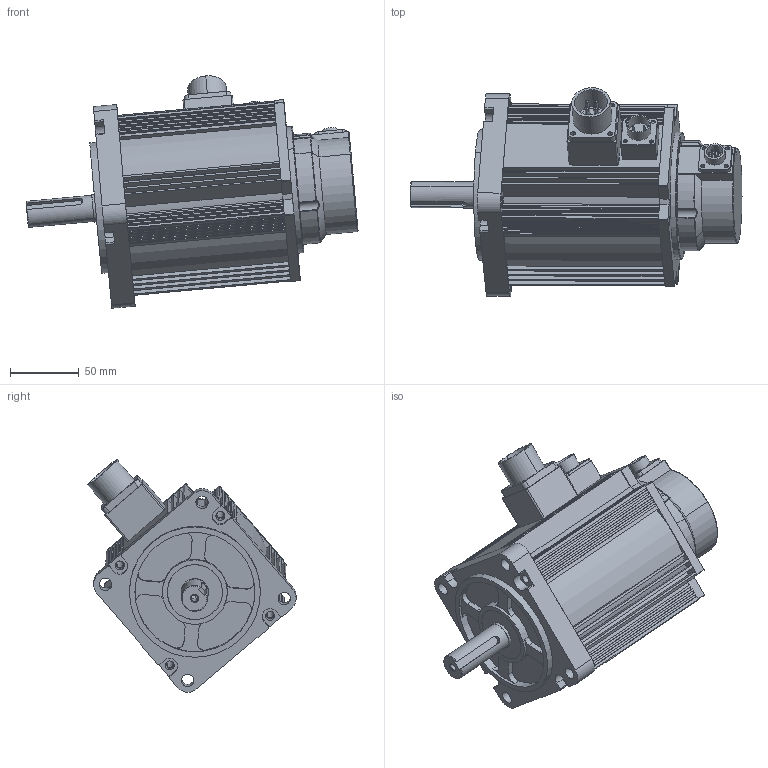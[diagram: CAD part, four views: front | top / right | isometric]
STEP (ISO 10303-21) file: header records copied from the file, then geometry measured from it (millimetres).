
FILE_DESCRIPTION (( 'STEP AP203' ), '1' );
FILE_NAME ('110A-042-Z.STEP', '2024-09-10T11:51:02', ( '' ), ( '' ), 'SwSTEP 2.0', 'SolidWorks 2018', '' );
FILE_SCHEMA (( 'CONFIG_CONTROL_DESIGN' ));
Length unit declared in the file: millimetre
Products named in the file (13): 錨璃3; 惕掅脣芛1; 儂褲 -4.2 -z; 蚐猾; 綴傷裔; 110A4.2N梓饜蛌粣; 18-10; 110A-042-Z; 諉盄釱; 惕掅脣釱; SC-CMV1-R10P-E; ヶ傷裔; 110A綴欶
Assembly tree (12 placements, depth 2):
  110A-042-Z
    ヶ傷裔
    綴傷裔
    諉盄釱
    110A綴欶
    110A4.2N梓饜蛌粣
    惕掅脣芛1
    惕掅脣釱
    錨璃3
    18-10
    SC-CMV1-R10P-E
    蚐猾
    儂褲 -4.2 -z
Bounding box: 240.91 x 151.23 x 168.71 mm (x, y, z)
Volume: 635943.4 mm3; surface area: 286424.5 mm2
Topology: 12 solids, 12 shells, 842 faces, 2202 edges, 1427 vertices
Faces by surface type: cylinder 381, plane 370, cone 48, torus 22, sphere 16, bspline 5
Entity records: 28392 total; most frequent: CARTESIAN_POINT 5613, DIRECTION 4653, ORIENTED_EDGE 4340, EDGE_CURVE 2170, AXIS2_PLACEMENT_3D 1700, VERTEX_POINT 1419, VECTOR 1253, LINE 1253
